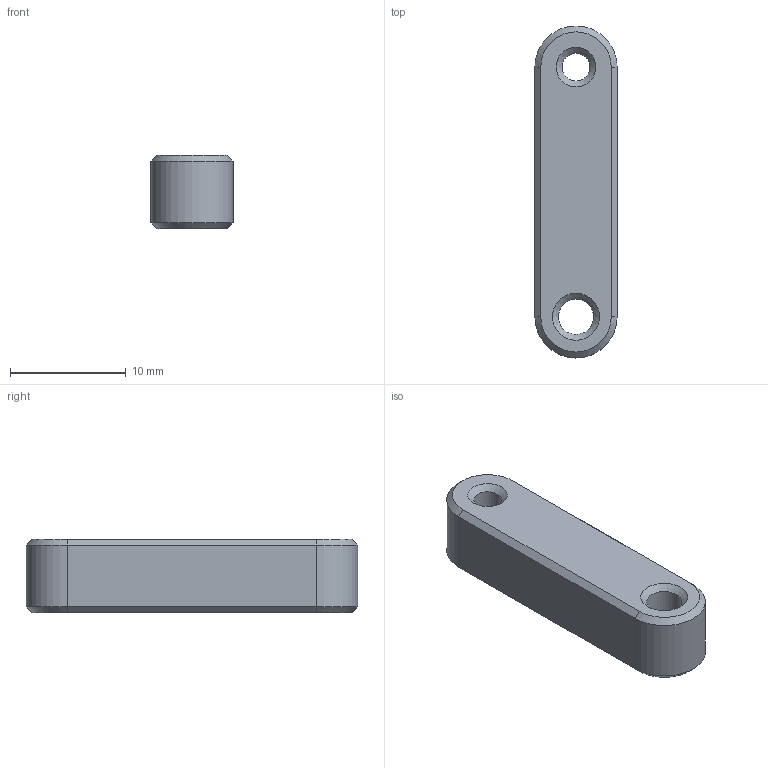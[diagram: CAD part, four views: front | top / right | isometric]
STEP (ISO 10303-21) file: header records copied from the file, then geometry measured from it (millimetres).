
FILE_DESCRIPTION(/* description */ ('STEP AP242','CAx-IF Rec.Pracs.---Representation and Presentation of Product Manufacturing Information (PMI)---4.0---2014-10-13','CAx-IF Rec.Pracs.---3D Tessellated Geometry---0.4---2014-09-14','2;1'),/* implementation_level */ '2;1');
FILE_NAME(/* name */ '6367aa170f60637f9a1aef0e',/* time_stamp */ '2022-11-06T12:35:36+00:00',/* author */ (''),/* organization */ (''),/* preprocessor_version */ 'ST-DEVELOPER v18.102',/* originating_system */ ' ',/* authorisation */ ' ');
FILE_SCHEMA (('AP242_MANAGED_MODEL_BASED_3D_ENGINEERING_MIM_LF { 1 0 10303 442 1 1 4 }'));
Length unit declared in the file: metre
Products named in the file (1): Forward Hinge Arm
Bounding box: 7.11 x 28.7 x 6.35 mm (x, y, z)
Volume: 1130.3 mm3; surface area: 839.3 mm2
Topology: 1 solids, 1 shells, 20 faces, 42 edges, 24 vertices
Faces by surface type: plane 8, cone 8, cylinder 4
Full cylindrical faces by diameter (mm): 2.413 x1, 3.048 x1
Entity records: 526 total; most frequent: DIRECTION 94, CARTESIAN_POINT 81, ORIENTED_EDGE 72, AXIS2_PLACEMENT_3D 37, EDGE_CURVE 36, EDGE_LOOP 30, FACE_BOUND 30, VERTEX_POINT 24
